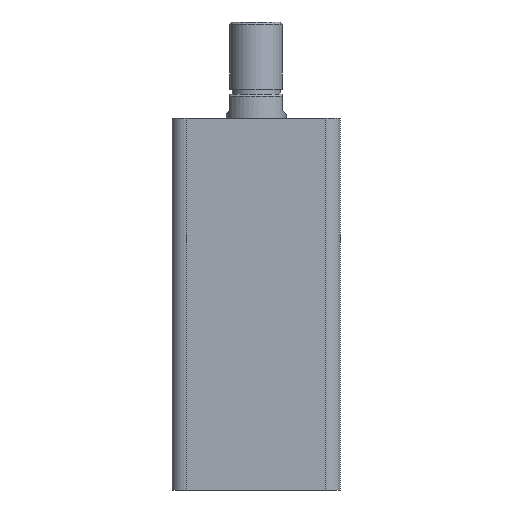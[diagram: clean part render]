
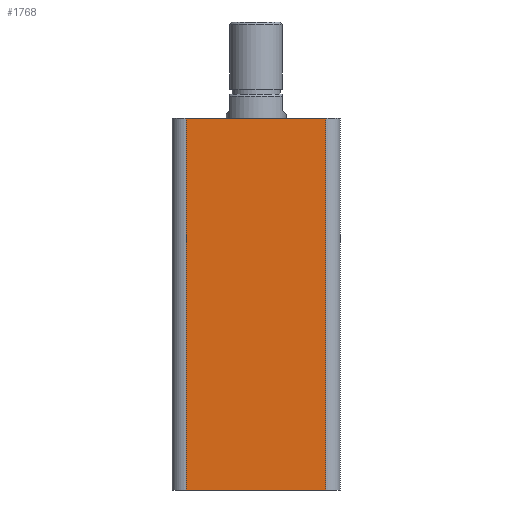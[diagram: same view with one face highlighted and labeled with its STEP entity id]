
A CAD part, front view. The second image highlights one B-rep face of the part: STEP entity #1768.
In plain terms, the highlighted planar face has unit normal (0, -1, 0).
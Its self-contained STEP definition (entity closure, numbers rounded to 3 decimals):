
#277 = AXIS2_PLACEMENT_3D ( 'NONE', #2160, #2365, #2363 ) ;
#480 = ORIENTED_EDGE ( 'NONE', *, *, #841, .T. ) ;
#500 = ORIENTED_EDGE ( 'NONE', *, *, #830, .F. ) ;
#501 = ORIENTED_EDGE ( 'NONE', *, *, #833, .T. ) ;
#502 = ORIENTED_EDGE ( 'NONE', *, *, #836, .T. ) ;
#566 = VERTEX_POINT ( 'NONE', #2713 ) ;
#570 = VERTEX_POINT ( 'NONE', #2709 ) ;
#605 = VERTEX_POINT ( 'NONE', #2674 ) ;
#677 = VERTEX_POINT ( 'NONE', #2604 ) ;
#830 = EDGE_CURVE ( 'NONE', #677, #605, #1219, .T. ) ;
#833 = EDGE_CURVE ( 'NONE', #677, #566, #1214, .T. ) ;
#836 = EDGE_CURVE ( 'NONE', #566, #570, #1209, .T. ) ;
#841 = EDGE_CURVE ( 'NONE', #570, #605, #1200, .T. ) ;
#1100 = FACE_OUTER_BOUND ( 'NONE', #1306, .T. ) ;
#1193 = VECTOR ( 'NONE', #2509, 1000. ) ;
#1200 = LINE ( 'NONE', #2514, #1193 ) ;
#1206 = VECTOR ( 'NONE', #2528, 1000. ) ;
#1209 = LINE ( 'NONE', #2524, #1206 ) ;
#1210 = VECTOR ( 'NONE', #2537, 1000. ) ;
#1214 = LINE ( 'NONE', #2533, #1210 ) ;
#1216 = VECTOR ( 'NONE', #2545, 1000. ) ;
#1219 = LINE ( 'NONE', #2541, #1216 ) ;
#1306 = EDGE_LOOP ( 'NONE', ( #500, #501, #502, #480 ) ) ;
#1768 = ADVANCED_FACE ( 'NONE', ( #1100 ), #2133, .F. ) ;
#2133 = PLANE ( 'NONE',  #277 ) ;
#2160 = CARTESIAN_POINT ( 'NONE',  ( -35., -35., 155. ) ) ;
#2363 = DIRECTION ( 'NONE',  ( 0., 0., 1. ) ) ;
#2365 = DIRECTION ( 'NONE',  ( 0., 1., 0. ) ) ;
#2509 = DIRECTION ( 'NONE',  ( 0., 0., 1. ) ) ;
#2514 = CARTESIAN_POINT ( 'NONE',  ( 29., -35., 155. ) ) ;
#2524 = CARTESIAN_POINT ( 'NONE',  ( -35., -35., 0. ) ) ;
#2528 = DIRECTION ( 'NONE',  ( 1., 0., 0. ) ) ;
#2533 = CARTESIAN_POINT ( 'NONE',  ( -29., -35., 155. ) ) ;
#2537 = DIRECTION ( 'NONE',  ( 0., 0., -1. ) ) ;
#2541 = CARTESIAN_POINT ( 'NONE',  ( -35., -35., 155. ) ) ;
#2545 = DIRECTION ( 'NONE',  ( 1., 0., 0. ) ) ;
#2604 = CARTESIAN_POINT ( 'NONE',  ( -29., -35., 155. ) ) ;
#2674 = CARTESIAN_POINT ( 'NONE',  ( 29., -35., 155. ) ) ;
#2709 = CARTESIAN_POINT ( 'NONE',  ( 29., -35., 0. ) ) ;
#2713 = CARTESIAN_POINT ( 'NONE',  ( -29., -35., 0. ) ) ;
